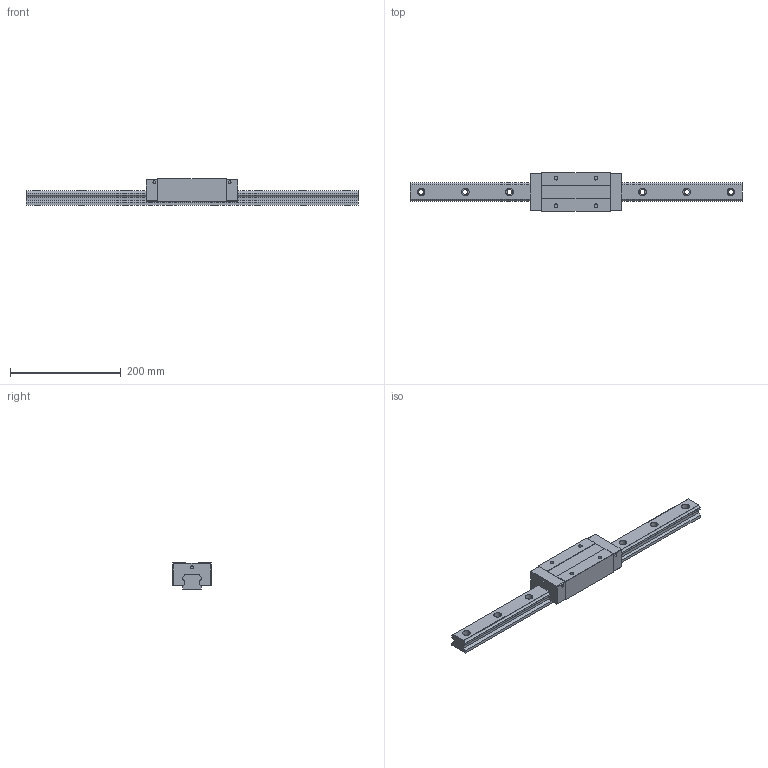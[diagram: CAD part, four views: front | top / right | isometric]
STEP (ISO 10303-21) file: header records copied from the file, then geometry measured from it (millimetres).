
FILE_DESCRIPTION (( 'STEP AP203' ), '1' );
FILE_NAME ('TRS35VE-WW.STEP', '2024-05-24T01:23:34', ( '' ), ( '' ), 'SwSTEP 2.0', 'SolidWorks 2022', '' );
FILE_SCHEMA (( 'CONFIG_CONTROL_DESIGN' ));
Length unit declared in the file: millimetre
Products named in the file (1): TRS35VE-WW
Bounding box: 600 x 70 x 48 mm (x, y, z)
Volume: 814039.5 mm3; surface area: 131312.2 mm2
Topology: 2 solids, 2 shells, 178 faces, 464 edges, 308 vertices
Faces by surface type: plane 90, cylinder 88
Entity records: 5619 total; most frequent: DIRECTION 998, CARTESIAN_POINT 951, ORIENTED_EDGE 928, EDGE_CURVE 464, AXIS2_PLACEMENT_3D 355, VERTEX_POINT 308, LINE 288, VECTOR 288
